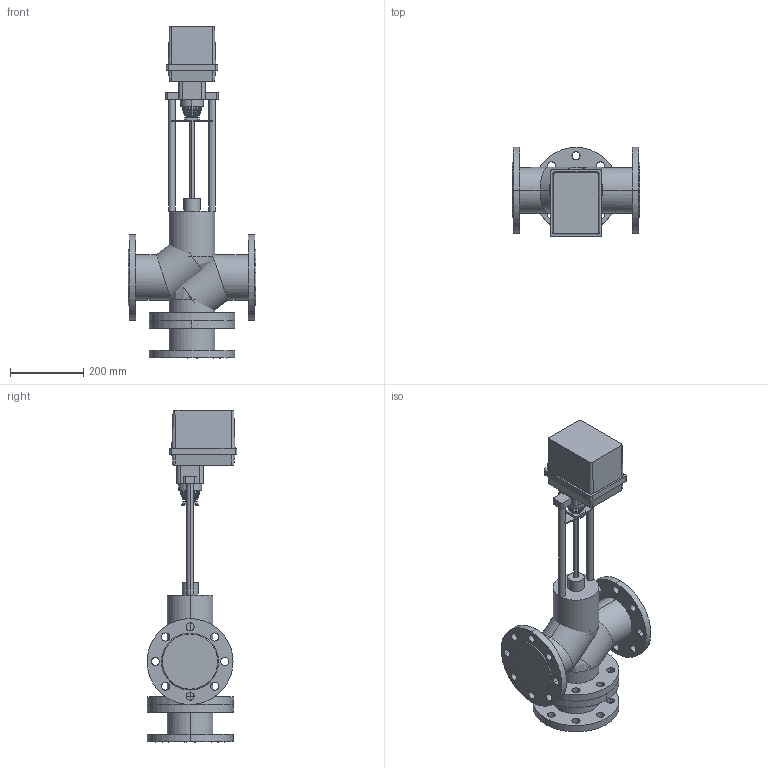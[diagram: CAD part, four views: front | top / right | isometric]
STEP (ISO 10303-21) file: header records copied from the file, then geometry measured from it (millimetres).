
FILE_DESCRIPTION(/* description */ (''),/* implementation_level */ '2;1');
FILE_NAME(/* name */ 'ТРК DN100 PN 2.5 МПа Regada ST0.1',/* time_stamp */ '2026-07-14T23:12:43+03:00',/* author */ (''),/* organization */ (''),/* preprocessor_version */ 'ST-DEVELOPER v20',/* originating_system */ '',/* authorisation */ '');
FILE_SCHEMA (('AP242_MANAGED_MODEL_BASED_3D_ENGINEERING_MIM_LF { 1 0 10303 442 1 1 4 }'));
Length unit declared in the file: millimetre
Products named in the file (16): TopLevelAssembly; Выдавливание; Модификатор; Модификатор_1; Выдавливание_
1; Выдавливание_
2; Вращение; Выдавливание_
3; Выдавливание_
4; Выдавливание_
5; Выдавливание_
6; Выдавливание_
7; Привод_Regada ST 01; Переход; Объемная геометрия 
присоединена; Объемная геометрия 
присоединена_1
Assembly tree (15 placements, depth 2):
  TopLevelAssembly
    Выдавливание
    Модификатор
    Модификатор_1
    Выдавливание_
1
    Выдавливание_
2
    Вращение
    Выдавливание_
3
    Выдавливание_
4
    Выдавливание_
5
    Выдавливание_
6
    Выдавливание_
7
    Привод_Regada ST 01
    Переход
    Объемная геометрия 
присоединена
    Объемная геометрия 
присоединена_1
Bounding box: 350 x 245.49 x 908 mm (x, y, z)
Volume: 16370633.3 mm3; surface area: 1337705.7 mm2
Topology: 25 solids, 25 shells, 289 faces, 673 edges, 428 vertices
Faces by surface type: cylinder 150, plane 93, bspline 42, cone 4
Entity records: 9716 total; most frequent: CARTESIAN_POINT 2193, DIRECTION 1592, ORIENTED_EDGE 1330, EDGE_CURVE 665, AXIS2_PLACEMENT_3D 649, VERTEX_POINT 428, EDGE_LOOP 379, CIRCLE 363
